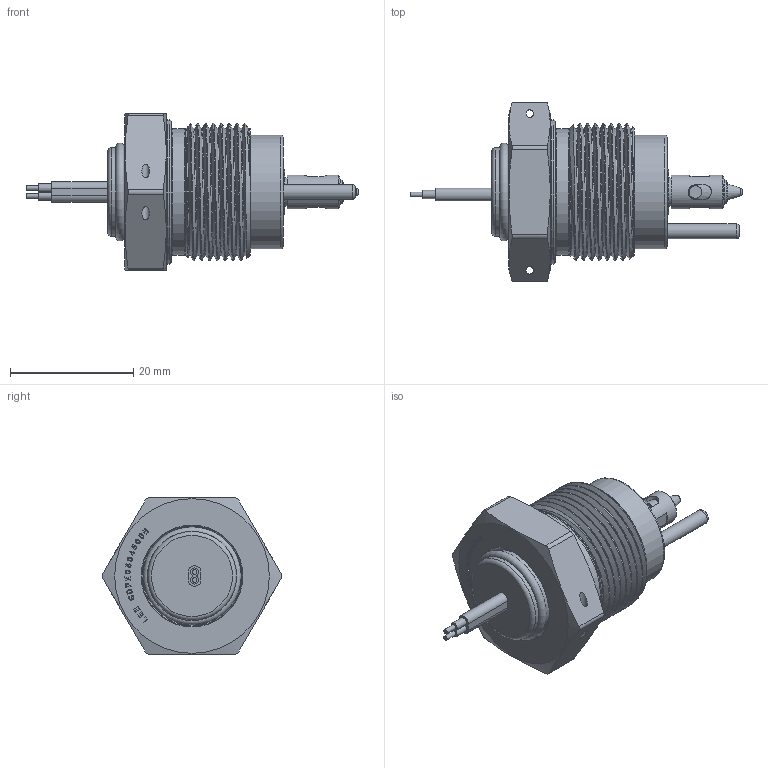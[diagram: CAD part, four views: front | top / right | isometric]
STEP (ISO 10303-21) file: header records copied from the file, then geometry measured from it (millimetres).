
FILE_DESCRIPTION (( 'STEP AP214' ), '1' );
FILE_NAME ('SDPX0504500B.STEP', '2021-02-22T18:07:25', ( '' ), ( '' ), 'SwSTEP 2.0', 'SolidWorks 2019', '' );
FILE_SCHEMA (( 'AUTOMOTIVE_DESIGN' ));
Length unit declared in the file: inch
Products named in the file (1): SDPX0504500B
Bounding box: 53.79 x 29.09 x 25.4 mm (x, y, z)
Volume: 10750 mm3; surface area: 4056 mm2
Topology: 1 solids, 1 shells, 718 faces, 2009 edges, 1338 vertices
Faces by surface type: plane 656, cylinder 35, cone 14, torus 11, bspline 2
Full cylindrical faces by diameter (mm): 0.762 x2, 1.245 x2, 2.057 x1, 2.388 x1, 5.499 x1, 7.366 x1, 9.271 x1, 14.376 x2, 16.205 x1, 18.415 x1, 20.472 x1, 23.368 x1
Entity records: 36595 total; most frequent: CARTESIAN_POINT 8987, ORIENTED_EDGE 3924, DIRECTION 3406, EDGE_CURVE 1962, LINE 1830, VECTOR 1830, VERTEX_POINT 1328, EDGE_LOOP 804
